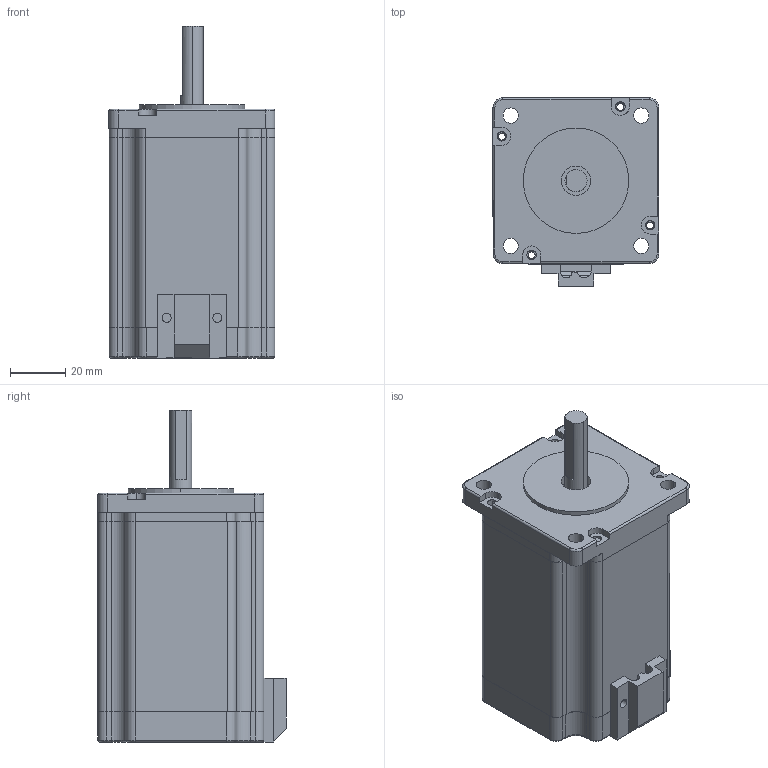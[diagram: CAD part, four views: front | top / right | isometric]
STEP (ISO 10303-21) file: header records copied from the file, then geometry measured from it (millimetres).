
FILE_DESCRIPTION (( 'STEP AP214' ), '1' );
FILE_NAME ('60CM30-30.STEP', '2024-12-13T07:27:14', ( 'MM' ), ( 'Microsoft' ), 'SwSTEP 2.0', 'SolidWorks 2020', '' );
FILE_SCHEMA (( 'AUTOMOTIVE_DESIGN' ));
Length unit declared in the file: millimetre
Products named in the file (7): 蛌粣; 蛌赽郪璃; 60隅赽; 60揤盄輸 2謂; 60CM30-30; 60綴裔; 60ヶ裔
Assembly tree (6 placements, depth 3):
  60CM30-30
    60綴裔
    60隅赽
    60ヶ裔
    蛌赽郪璃
      蛌粣
    60揤盄輸 2謂
Bounding box: 60 x 68 x 120 mm (x, y, z)
Volume: 184592.4 mm3; surface area: 65459.5 mm2
Topology: 5 solids, 5 shells, 351 faces, 940 edges, 598 vertices
Faces by surface type: cylinder 172, plane 133, torus 36, cone 10
Entity records: 11972 total; most frequent: DIRECTION 2060, CARTESIAN_POINT 1929, ORIENTED_EDGE 1880, EDGE_CURVE 940, AXIS2_PLACEMENT_3D 769, VERTEX_POINT 598, LINE 522, VECTOR 522
